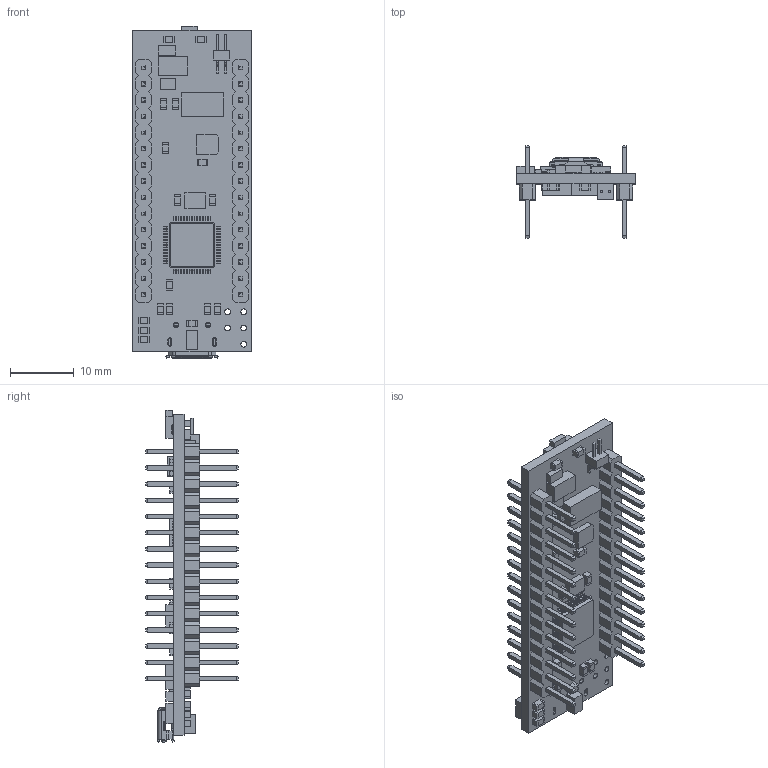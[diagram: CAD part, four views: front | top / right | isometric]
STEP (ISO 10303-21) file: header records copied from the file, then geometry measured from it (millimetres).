
FILE_DESCRIPTION (( 'STEP AP214' ), '1' );
FILE_NAME ('NUCLEO-L432KC.STEP', '2023-02-06T08:59:08', ( '' ), ( '' ), 'SwSTEP 2.0', 'SolidWorks 2021', '' );
FILE_SCHEMA (( 'AUTOMOTIVE_DESIGN' ));
Length unit declared in the file: millimetre
Products named in the file (6): STM32F103CBT6-nucleo; mb1180c; LD39050PU33R-Nucleo; header x2; qfn_STM32L412KBU6U; NUCLEO-L432KC
Assembly tree (5 placements, depth 2):
  NUCLEO-L432KC
    mb1180c
    qfn_STM32L412KBU6U
    LD39050PU33R-Nucleo
    STM32F103CBT6-nucleo
    header x2
Bounding box: 18.55 x 14.5 x 52 mm (x, y, z)
Volume: 2491.4 mm3; surface area: 6111.9 mm2
Topology: 296 solids, 296 shells, 3281 faces, 7756 edges, 5064 vertices
Faces by surface type: plane 2782, cylinder 489, torus 10
Entity records: 97576 total; most frequent: CARTESIAN_POINT 16187, ORIENTED_EDGE 15512, DIRECTION 15294, EDGE_CURVE 7756, LINE 6756, VECTOR 6756, VERTEX_POINT 5064, AXIS2_PLACEMENT_3D 4269
